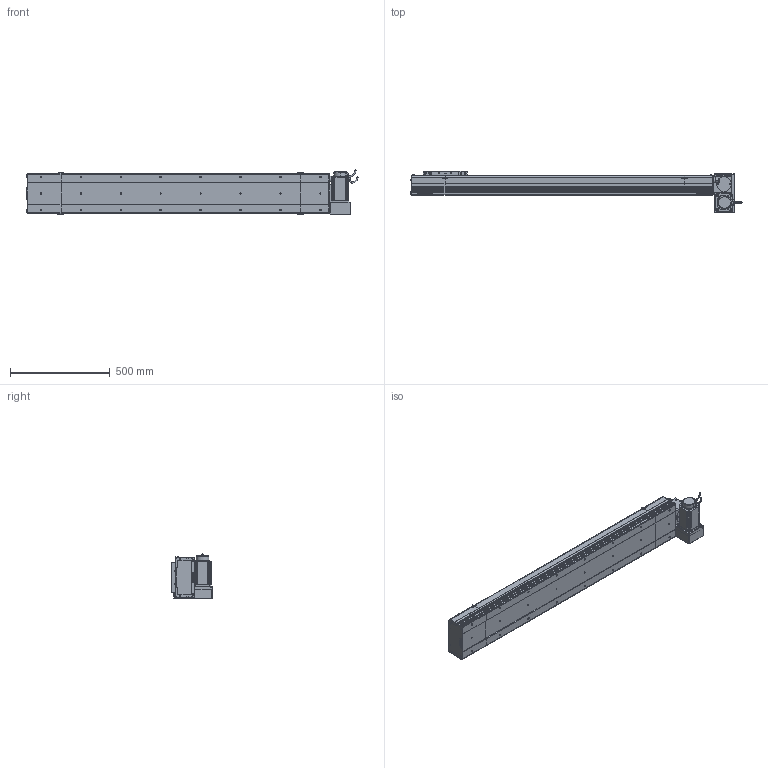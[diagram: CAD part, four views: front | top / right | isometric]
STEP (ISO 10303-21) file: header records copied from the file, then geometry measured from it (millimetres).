
FILE_DESCRIPTION (( 'STEP AP214' ), '1' );
FILE_NAME ('D20 CBH RU S1200.STEP', '2010-06-30T08:53:21', ( 'Conseil Régional Haute-Normandie' ), ( 'Conseil Régional Haute-Normandie' ), 'SwSTEP 2.0', 'SolidWorks 2010', '' );
FILE_SCHEMA (( 'AUTOMOTIVE_DESIGN' ));
Length unit declared in the file: millimetre
Products named in the file (31): Conecteur_Default; Chariot D20_Default; vis M5 L15_Default; Support Chariot D20_Default; Corp Tail D20_Default; Tail D20_Default; Couvercle S1200_Default; Plaque De Serrage D20_Default; Plaque de Bout Tail D20_Default; Couvercle_Default; Corp S1200_Default; Corp D20 S1200_Default; vis M5 L47_Default; ecrou_Default; vis M5 L30_Default; Glissiere_Default; Head RU_Default; D20 CBH RU S1200; Corp Tail D20 RU_Default; Support moteur RU_Default; Plaque de Bout Head D20 RU_Default; Cache Support Moteur RU_Default; Plaque De Serrage D20 RU_Default; Couvercle RU_Default; avant 90BLDC125A-640; Moteur motionking 90BLDC125A-640; Rondelle Cache D20 RU_Default; Conecteur2_Default; codeur 90BLDC125-640; corps 90BLDC125A-640
Assembly tree (66 placements, depth 4):
  D20 CBH RU S1200
    Chariot D20_Default
      vis M5 L15_Default  x8
      Chariot D20_Default
      Support Chariot D20_Default
      Glissiere_Default
    Tail D20_Default
      vis M5 L15_Default  x6
      Corp Tail D20_Default
      Plaque de Bout Tail D20_Default
      Plaque De Serrage D20_Default
      Couvercle_Default
    Corp D20 S1200_Default
      Couvercle S1200_Default
      Corp S1200_Default
    Head RU_Default
      vis M5 L15_Default  x12
      vis M5 L47_Default  x4
      ecrou_Default  x4
      Moteur motionking 90BLDC125A-640
        Conecteur_Default
        Conecteur2_Default
        avant 90BLDC125A-640
        codeur 90BLDC125-640
        corps 90BLDC125A-640
      vis M5 L30_Default  x4
      Couvercle RU_Default
      Plaque De Serrage D20 RU_Default
      Rondelle Cache D20 RU_Default  x3
      Plaque de Bout Head D20 RU_Default
      Cache Support Moteur RU_Default
      Support moteur RU_Default
      Corp Tail D20 RU_Default
Bounding box: 1664.45 x 209 x 229.7 mm (x, y, z)
Volume: 11869899.2 mm3; surface area: 2377998 mm2
Topology: 103 solids, 103 shells, 3733 faces, 9326 edges, 6058 vertices
Faces by surface type: plane 2084, bspline 806, cylinder 680, torus 91, cone 68, sphere 4
Entity records: 158446 total; most frequent: CARTESIAN_POINT 82155, ORIENTED_EDGE 15120, DIRECTION 11418, EDGE_CURVE 7560, VERTEX_POINT 5002, VECTOR 4912, LINE 4912, AXIS2_PLACEMENT_3D 3253
